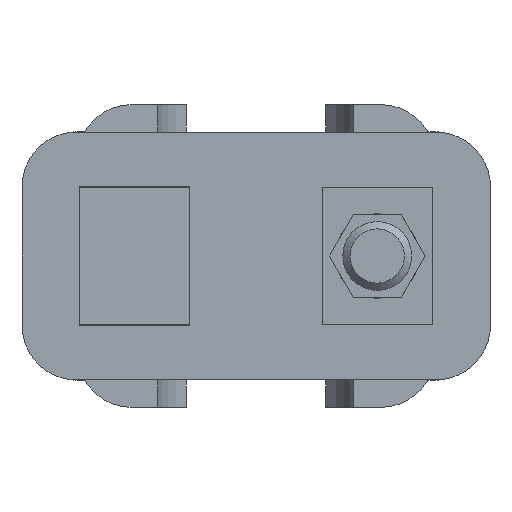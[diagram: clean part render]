
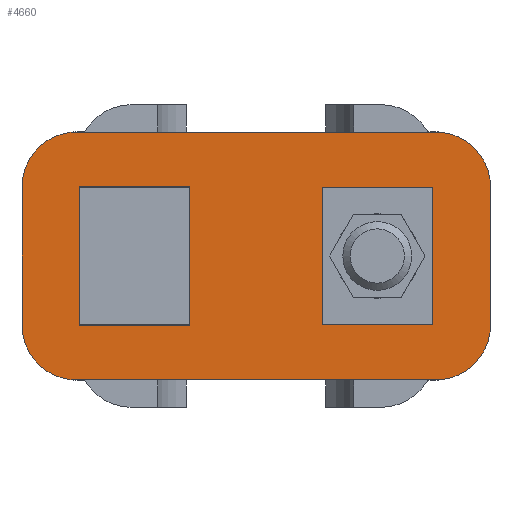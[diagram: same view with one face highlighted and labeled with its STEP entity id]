
A CAD part, front view. The second image highlights one B-rep face of the part: STEP entity #4660.
In plain terms, the highlighted planar face has unit normal (0, -1, 0).
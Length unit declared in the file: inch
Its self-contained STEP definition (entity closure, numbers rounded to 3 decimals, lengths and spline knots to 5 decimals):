
#87=PLANE('',#4994);
#286=CIRCLE('',#4995,0.25);
#287=CIRCLE('',#4996,0.25);
#288=CIRCLE('',#4997,0.25);
#289=CIRCLE('',#4998,0.25);
#502=ORIENTED_EDGE('',*,*,#1887,.F.);
#503=ORIENTED_EDGE('',*,*,#1888,.T.);
#504=ORIENTED_EDGE('',*,*,#1889,.F.);
#505=ORIENTED_EDGE('',*,*,#1890,.F.);
#506=ORIENTED_EDGE('',*,*,#1891,.F.);
#507=ORIENTED_EDGE('',*,*,#1892,.T.);
#508=ORIENTED_EDGE('',*,*,#1893,.F.);
#509=ORIENTED_EDGE('',*,*,#1894,.F.);
#510=ORIENTED_EDGE('',*,*,#1895,.T.);
#511=ORIENTED_EDGE('',*,*,#1896,.T.);
#512=ORIENTED_EDGE('',*,*,#1897,.F.);
#513=ORIENTED_EDGE('',*,*,#1898,.T.);
#514=ORIENTED_EDGE('',*,*,#1899,.F.);
#515=ORIENTED_EDGE('',*,*,#1900,.T.);
#516=ORIENTED_EDGE('',*,*,#1901,.T.);
#517=ORIENTED_EDGE('',*,*,#1902,.T.);
#1887=EDGE_CURVE('',#2577,#2578,#3028,.T.);
#1888=EDGE_CURVE('',#2577,#2579,#3029,.T.);
#1889=EDGE_CURVE('',#2580,#2579,#3030,.T.);
#1890=EDGE_CURVE('',#2578,#2580,#3031,.T.);
#1891=EDGE_CURVE('',#2581,#2582,#3032,.T.);
#1892=EDGE_CURVE('',#2581,#2583,#3033,.T.);
#1893=EDGE_CURVE('',#2584,#2583,#3034,.T.);
#1894=EDGE_CURVE('',#2582,#2584,#3035,.T.);
#1895=EDGE_CURVE('',#2585,#2586,#3036,.T.);
#1896=EDGE_CURVE('',#2586,#2587,#286,.F.);
#1897=EDGE_CURVE('',#2588,#2587,#3037,.T.);
#1898=EDGE_CURVE('',#2588,#2589,#287,.F.);
#1899=EDGE_CURVE('',#2590,#2589,#3038,.T.);
#1900=EDGE_CURVE('',#2590,#2591,#288,.F.);
#1901=EDGE_CURVE('',#2591,#2592,#3039,.T.);
#1902=EDGE_CURVE('',#2592,#2585,#289,.F.);
#2577=VERTEX_POINT('',#6865);
#2578=VERTEX_POINT('',#6866);
#2579=VERTEX_POINT('',#6868);
#2580=VERTEX_POINT('',#6870);
#2581=VERTEX_POINT('',#6873);
#2582=VERTEX_POINT('',#6874);
#2583=VERTEX_POINT('',#6876);
#2584=VERTEX_POINT('',#6878);
#2585=VERTEX_POINT('',#6881);
#2586=VERTEX_POINT('',#6882);
#2587=VERTEX_POINT('',#6884);
#2588=VERTEX_POINT('',#6886);
#2589=VERTEX_POINT('',#6888);
#2590=VERTEX_POINT('',#6890);
#2591=VERTEX_POINT('',#6892);
#2592=VERTEX_POINT('',#6894);
#3028=LINE('',#6864,#3543);
#3029=LINE('',#6867,#3544);
#3030=LINE('',#6869,#3545);
#3031=LINE('',#6871,#3546);
#3032=LINE('',#6872,#3547);
#3033=LINE('',#6875,#3548);
#3034=LINE('',#6877,#3549);
#3035=LINE('',#6879,#3550);
#3036=LINE('',#6880,#3551);
#3037=LINE('',#6885,#3552);
#3038=LINE('',#6889,#3553);
#3039=LINE('',#6893,#3554);
#3543=VECTOR('',#5502,39.37008);
#3544=VECTOR('',#5503,39.37008);
#3545=VECTOR('',#5504,39.37008);
#3546=VECTOR('',#5505,39.37008);
#3547=VECTOR('',#5506,39.37008);
#3548=VECTOR('',#5507,39.37008);
#3549=VECTOR('',#5508,39.37008);
#3550=VECTOR('',#5509,39.37008);
#3551=VECTOR('',#5510,39.37008);
#3552=VECTOR('',#5513,39.37008);
#3553=VECTOR('',#5516,39.37008);
#3554=VECTOR('',#5519,39.37008);
#4038=EDGE_LOOP('',(#502,#503,#504,#505));
#4039=EDGE_LOOP('',(#506,#507,#508,#509));
#4040=EDGE_LOOP('',(#510,#511,#512,#513,#514,#515,#516,#517));
#4317=FACE_BOUND('',#4038,.T.);
#4318=FACE_BOUND('',#4039,.T.);
#4319=FACE_BOUND('',#4040,.T.);
#4660=ADVANCED_FACE('',(#4317,#4318,#4319),#87,.F.);
#4994=AXIS2_PLACEMENT_3D('',#6863,#5500,#5501);
#4995=AXIS2_PLACEMENT_3D('',#6883,#5511,#5512);
#4996=AXIS2_PLACEMENT_3D('',#6887,#5514,#5515);
#4997=AXIS2_PLACEMENT_3D('',#6891,#5517,#5518);
#4998=AXIS2_PLACEMENT_3D('',#6895,#5520,#5521);
#5500=DIRECTION('',(0.,1.,0.));
#5501=DIRECTION('',(0.,0.,1.));
#5502=DIRECTION('',(0.,0.,-1.));
#5503=DIRECTION('',(1.,0.,0.));
#5504=DIRECTION('',(0.,0.,1.));
#5505=DIRECTION('',(1.,0.,0.));
#5506=DIRECTION('',(0.,0.,-1.));
#5507=DIRECTION('',(1.,0.,0.));
#5508=DIRECTION('',(0.,0.,1.));
#5509=DIRECTION('',(1.,0.,0.));
#5510=DIRECTION('',(0.,0.,-1.));
#5511=DIRECTION('',(0.,1.,0.));
#5512=DIRECTION('',(0.,0.,1.));
#5513=DIRECTION('',(-1.,0.,0.));
#5514=DIRECTION('',(0.,1.,0.));
#5515=DIRECTION('',(0.,0.,1.));
#5516=DIRECTION('',(0.,0.,-1.));
#5517=DIRECTION('',(0.,1.,0.));
#5518=DIRECTION('',(0.,0.,1.));
#5519=DIRECTION('',(-1.,0.,0.));
#5520=DIRECTION('',(0.,1.,0.));
#5521=DIRECTION('',(0.,0.,1.));
#6863=CARTESIAN_POINT('',(2.125,0.,0.5625));
#6864=CARTESIAN_POINT('',(0.26,0.,0.5625));
#6865=CARTESIAN_POINT('',(0.26,0.,0.3135));
#6866=CARTESIAN_POINT('',(0.26,0.,-0.3135));
#6867=CARTESIAN_POINT('',(2.125,0.,0.3135));
#6868=CARTESIAN_POINT('',(0.76,0.,0.3135));
#6869=CARTESIAN_POINT('',(0.76,0.,0.5625));
#6870=CARTESIAN_POINT('',(0.76,0.,-0.3135));
#6871=CARTESIAN_POINT('',(2.125,0.,-0.3135));
#6872=CARTESIAN_POINT('',(1.363,0.,0.5625));
#6873=CARTESIAN_POINT('',(1.363,0.,0.3125));
#6874=CARTESIAN_POINT('',(1.363,0.,-0.3125));
#6875=CARTESIAN_POINT('',(2.125,0.,0.3125));
#6876=CARTESIAN_POINT('',(1.863,0.,0.3125));
#6877=CARTESIAN_POINT('',(1.863,0.,0.5625));
#6878=CARTESIAN_POINT('',(1.863,0.,-0.3125));
#6879=CARTESIAN_POINT('',(2.125,0.,-0.3125));
#6880=CARTESIAN_POINT('',(0.,0.,0.5625));
#6881=CARTESIAN_POINT('',(0.,0.,0.3135));
#6882=CARTESIAN_POINT('',(0.,0.,-0.3135));
#6883=CARTESIAN_POINT('',(0.25,0.,-0.3135));
#6884=CARTESIAN_POINT('',(0.22766,0.,-0.5625));
#6885=CARTESIAN_POINT('',(2.125,0.,-0.5625));
#6886=CARTESIAN_POINT('',(1.89934,0.,-0.5625));
#6887=CARTESIAN_POINT('',(1.877,0.,-0.3135));
#6888=CARTESIAN_POINT('',(2.125,0.,-0.34506));
#6889=CARTESIAN_POINT('',(2.125,0.,0.5625));
#6890=CARTESIAN_POINT('',(2.125,0.,0.34506));
#6891=CARTESIAN_POINT('',(1.877,0.,0.3135));
#6892=CARTESIAN_POINT('',(1.89934,0.,0.5625));
#6893=CARTESIAN_POINT('',(2.125,0.,0.5625));
#6894=CARTESIAN_POINT('',(0.22766,0.,0.5625));
#6895=CARTESIAN_POINT('',(0.25,0.,0.3135));
